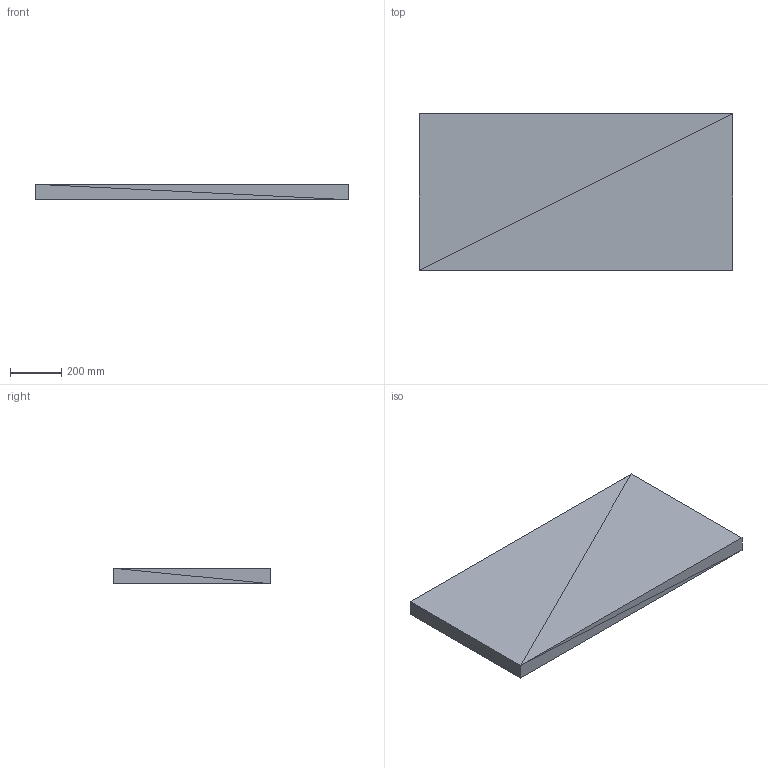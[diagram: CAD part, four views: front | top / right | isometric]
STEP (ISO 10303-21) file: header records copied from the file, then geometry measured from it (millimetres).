
FILE_DESCRIPTION(('ISINAC STEP AP214'),'2;1');
FILE_NAME('ISINAC_R.1220.610_60mm_ADHESIVO','2026-05-03T10:49:19',('ISINAC'),('www.isinac.com'),'ISINAC BIM Generator 1.0','','');
FILE_SCHEMA(('AUTOMOTIVE_DESIGN'));
Length unit declared in the file: millimetre
Products named in the file (1): ISINAC_R.1220.610_60mm_ADHESIVO
Bounding box: 1220 x 610 x 60 mm (x, y, z)
Surface area: 1708000 mm2 (no closed solid volume)
Topology: 0 solids, 12 shells, 12 faces, 36 edges, 36 vertices
Faces by surface type: plane 12
Entity records: 145 total; most frequent: CARTESIAN_POINT 48, DIRECTION 24, POLY_LOOP 12, FACE_OUTER_BOUND 12, AXIS2_PLACEMENT_3D 12, PLANE 12, FACE_SURFACE 12, CLOSED_SHELL 1
